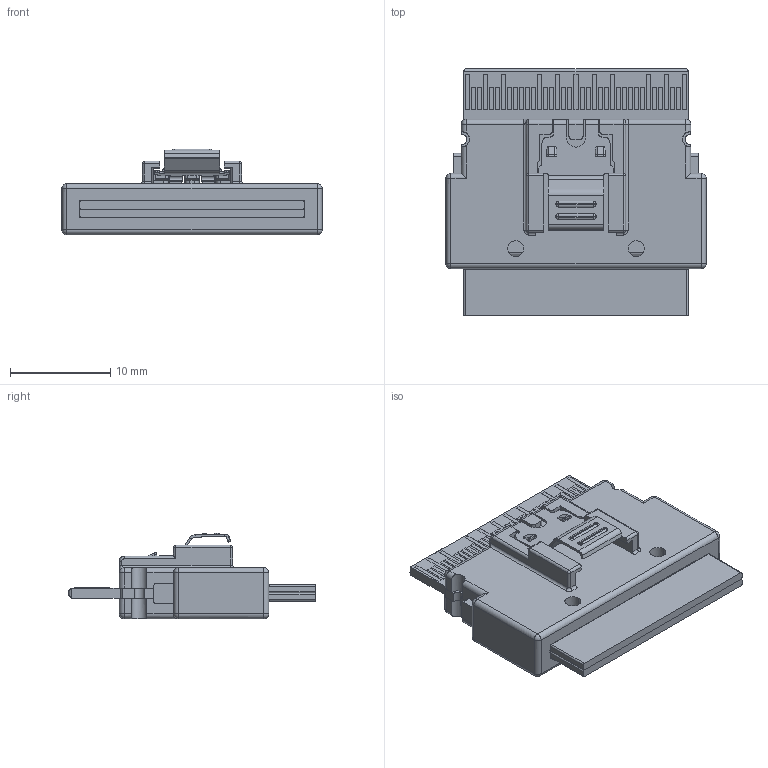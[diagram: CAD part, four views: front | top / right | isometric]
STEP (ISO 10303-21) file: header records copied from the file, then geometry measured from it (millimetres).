
FILE_DESCRIPTION((''),'2;1');
FILE_NAME('AST8654-0074-01_ASM','2016-06-28T',('louischan'),(''),'PRO/ENGINEER BY PARAMETRIC TECHNOLOGY CORPORATION, 2013230','PRO/ENGINEER BY PARAMETRIC TECHNOLOGY CORPORATION, 2013230','');
FILE_SCHEMA(('CONFIG_CONTROL_DESIGN'));
Length unit declared in the file: millimetre
Products named in the file (8): PLUG_PCB_34_1; OVERMOLD_37_1; LATCH_0828_13_1; 31AWG_RIBBON_CABLE_6_1; INNERMLD_1_1; PLUG_ASM_69_ASM_1_ASM; 9_ASM_1_ASM; AST8654-0074-01_ASM
Assembly tree (8 placements, depth 4):
  AST8654-0074-01_ASM
    9_ASM_1_ASM
      PLUG_ASM_69_ASM_1_ASM
        PLUG_PCB_34_1
        OVERMOLD_37_1
        LATCH_0828_13_1
        31AWG_RIBBON_CABLE_6_1  x2
        INNERMLD_1_1
Bounding box: 25.95 x 24.6 x 8.54 mm (x, y, z)
Volume: 2290.5 mm3; surface area: 3919 mm2
Topology: 6 solids, 6 shells, 1039 faces, 2699 edges, 1733 vertices
Faces by surface type: plane 721, cylinder 182, extrusion 73, sphere 32, torus 19, bspline 12
Entity records: 31350 total; most frequent: CARTESIAN_POINT 6694, ORIENTED_EDGE 5182, DIRECTION 4733, EDGE_CURVE 2591, VECTOR 2077, LINE 2004, VERTEX_POINT 1689, AXIS2_PLACEMENT_3D 1328
